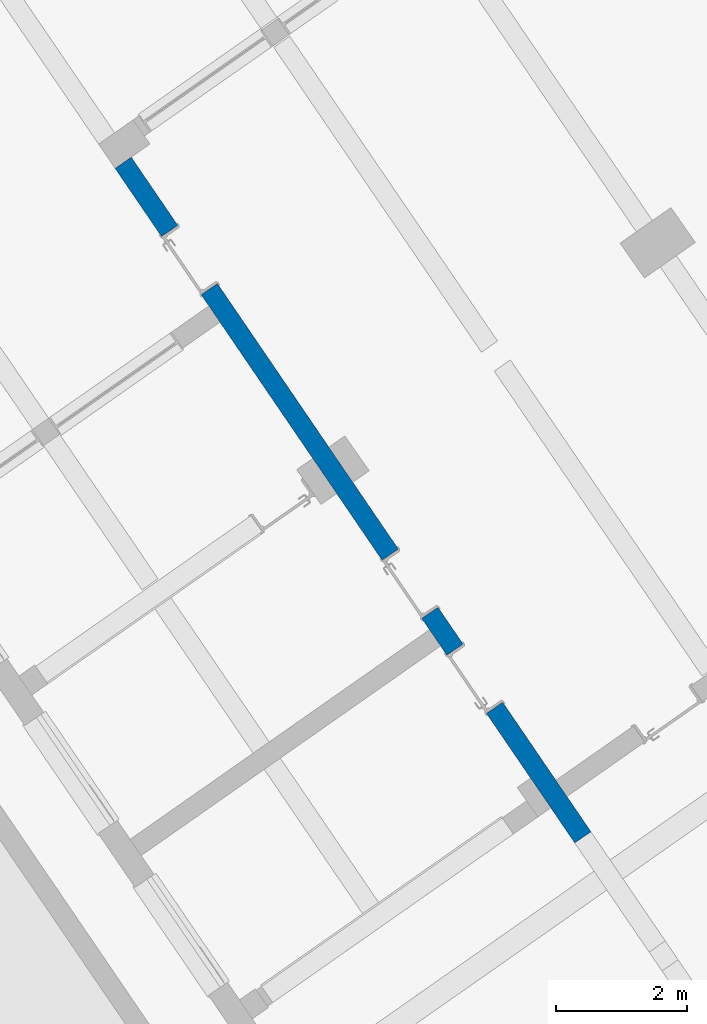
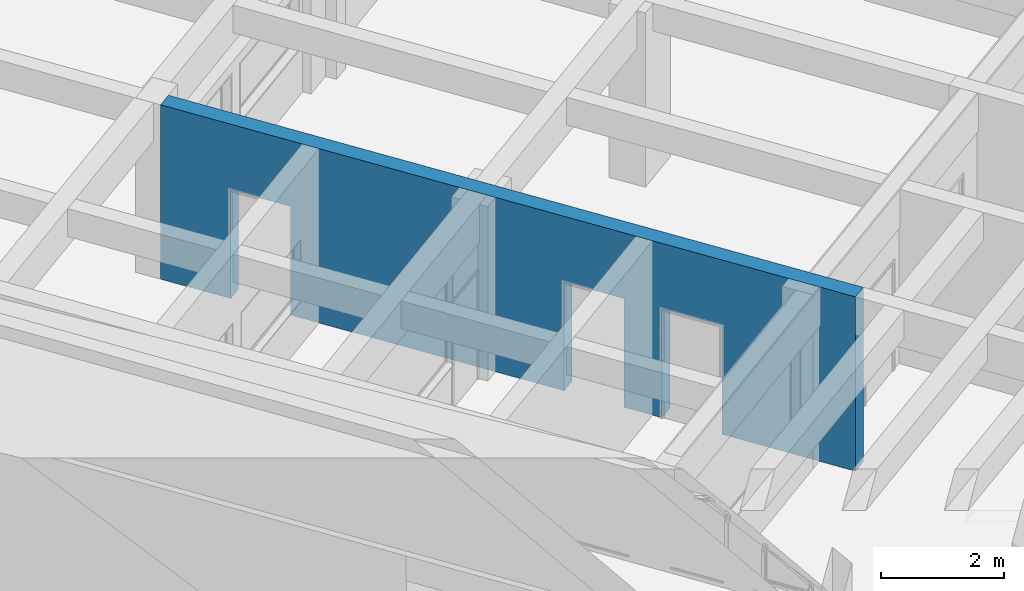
# One storey, part 60 of 112: 1 wall, 3 openings.
"""IFC2X3 building model written with IfcOpenShell, lengths in millimetres."""

from ifc_helpers import new_model, entity, si_unit, converted_unit, derived_unit, direction, frame, frame_2d, origin, place, context, subcontext, project, spatial, polyline, rectangle, outline, extrude, material, layer, layer_set, layer_usage, type_object, element, save


model = new_model("IFC2X3")

# Units and contexts
model_context = context("Model", 3, precision=0.01, world=origin(), true_north=direction((6.123031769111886e-17, 1.0)))
body_context = subcontext(model_context, "Body", "Model", "MODEL_VIEW")
ifc_project = project(units=[si_unit("LENGTHUNIT", "METRE", prefix="MILLI"), si_unit("AREAUNIT", "SQUARE_METRE"), si_unit("VOLUMEUNIT", "CUBIC_METRE"), converted_unit("PLANEANGLEUNIT", "DEGREE", entity("IfcRatioMeasure", 0.017453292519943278), si_unit("PLANEANGLEUNIT", "RADIAN"), dimensions=[0, 0, 0, 0, 0, 0, 0]), si_unit("MASSUNIT", "GRAM", prefix="KILO"), derived_unit("MASSDENSITYUNIT", [(si_unit("MASSUNIT", "GRAM", prefix="KILO"), 1), (si_unit("LENGTHUNIT", "METRE"), -3)]), derived_unit("MOMENTOFINERTIAUNIT", [(si_unit("LENGTHUNIT", "METRE"), 4)]), si_unit("TIMEUNIT", "SECOND"), si_unit("FREQUENCYUNIT", "HERTZ"), si_unit("THERMODYNAMICTEMPERATUREUNIT", "DEGREE_CELSIUS"), derived_unit("THERMALTRANSMITTANCEUNIT", [(si_unit("MASSUNIT", "GRAM", prefix="KILO"), 1), (si_unit("THERMODYNAMICTEMPERATUREUNIT", "KELVIN"), -1), (si_unit("TIMEUNIT", "SECOND"), -3)]), derived_unit("THERMALCONDUCTANCEUNIT", [(si_unit("MASSUNIT", "GRAM", prefix="KILO"), 1), (si_unit("LENGTHUNIT", "METRE"), 1), (si_unit("THERMODYNAMICTEMPERATUREUNIT", "KELVIN"), -1), (si_unit("TIMEUNIT", "SECOND"), -3)]), derived_unit("VOLUMETRICFLOWRATEUNIT", [(si_unit("LENGTHUNIT", "METRE"), 3), (si_unit("TIMEUNIT", "SECOND"), -1)]), derived_unit("MASSFLOWRATEUNIT", [(si_unit("MASSUNIT", "GRAM", prefix="KILO"), 1), (si_unit("TIMEUNIT", "SECOND"), -1)]), derived_unit("ROTATIONALFREQUENCYUNIT", [(si_unit("TIMEUNIT", "SECOND"), -1)]), si_unit("ELECTRICCURRENTUNIT", "AMPERE"), si_unit("ELECTRICVOLTAGEUNIT", "VOLT"), si_unit("POWERUNIT", "WATT"), converted_unit("FORCEUNIT", "KIP", entity("IfcRatioMeasure", 2.088543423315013e-05), si_unit("FORCEUNIT", "NEWTON"), dimensions=[1, 1, -2, 0, 0, 0, 0]), si_unit("ILLUMINANCEUNIT", "LUX"), si_unit("LUMINOUSFLUXUNIT", "LUMEN"), si_unit("LUMINOUSINTENSITYUNIT", "CANDELA"), derived_unit("USERDEFINED", [(si_unit("MASSUNIT", "GRAM", prefix="KILO"), -1), (si_unit("LENGTHUNIT", "METRE"), -2), (si_unit("TIMEUNIT", "SECOND"), 3), (si_unit("LUMINOUSFLUXUNIT", "LUMEN"), 1)]), derived_unit("USERDEFINED", [(si_unit("MASSUNIT", "GRAM", prefix="KILO"), 1), (si_unit("LENGTHUNIT", "METRE"), 3), (si_unit("TIMEUNIT", "SECOND"), -3), (si_unit("ELECTRICCURRENTUNIT", "AMPERE"), -2)]), derived_unit("USERDEFINED", [(si_unit("LENGTHUNIT", "METRE"), 2), (si_unit("TIMEUNIT", "SECOND"), -2)]), derived_unit("SOUNDPOWERUNIT", [(si_unit("MASSUNIT", "GRAM", prefix="KILO"), 1), (si_unit("LENGTHUNIT", "METRE"), 2), (si_unit("TIMEUNIT", "SECOND"), -3)]), derived_unit("SOUNDPRESSUREUNIT", [(si_unit("MASSUNIT", "GRAM", prefix="KILO"), 1), (si_unit("LENGTHUNIT", "METRE"), -1), (si_unit("TIMEUNIT", "SECOND"), -2)]), derived_unit("LINEARVELOCITYUNIT", [(si_unit("LENGTHUNIT", "METRE"), 1), (si_unit("TIMEUNIT", "SECOND"), -1)]), si_unit("PRESSUREUNIT", "PASCAL"), derived_unit("USERDEFINED", [(si_unit("LENGTHUNIT", "METRE"), -2), (si_unit("MASSUNIT", "GRAM", prefix="KILO"), 1), (si_unit("TIMEUNIT", "SECOND"), -2)]), derived_unit("LINEARFORCEUNIT", [(si_unit("MASSUNIT", "GRAM", prefix="KILO"), 1), (si_unit("LENGTHUNIT", "METRE"), 1), (si_unit("TIMEUNIT", "SECOND"), -2), (si_unit("LENGTHUNIT", "METRE"), -1)]), derived_unit("PLANARFORCEUNIT", [(si_unit("MASSUNIT", "GRAM", prefix="KILO"), 1), (si_unit("LENGTHUNIT", "METRE"), 1), (si_unit("TIMEUNIT", "SECOND"), -2), (si_unit("LENGTHUNIT", "METRE"), -2)]), derived_unit("SPECIFICHEATCAPACITYUNIT", [(si_unit("LENGTHUNIT", "METRE"), 2), (si_unit("TIMEUNIT", "SECOND"), -2), (si_unit("THERMODYNAMICTEMPERATUREUNIT", "KELVIN"), -1)]), derived_unit("VAPORPERMEABILITYUNIT", [(si_unit("TIMEUNIT", "SECOND"), 1), (si_unit("LENGTHUNIT", "METRE"), -1)]), derived_unit("DYNAMICVISCOSITYUNIT", [(si_unit("MASSUNIT", "GRAM", prefix="KILO"), 1), (si_unit("LENGTHUNIT", "METRE"), -1), (si_unit("TIMEUNIT", "SECOND"), -1)]), derived_unit("THERMALEXPANSIONCOEFFICIENTUNIT", [(si_unit("THERMODYNAMICTEMPERATUREUNIT", "KELVIN"), -1)])], contexts=[model_context])

# Site, building, storey
site_placement = place(None, frame((0.0, 0.0, 0.0), z_axis=(0.0, 0.0, 1.0), x_axis=(0.8191520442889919, 0.5735764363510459, 0.0)))
site = spatial("IfcSite", under=ifc_project, at=site_placement, Name="Default", CompositionType="ELEMENT")
building_placement = place(site_placement, origin())
building = spatial("IfcBuilding", under=site, at=building_placement, CompositionType="ELEMENT")
storey_placement = place(building_placement, frame((0.0, 0.0, -3600.0)))
storey = spatial("IfcBuildingStorey", under=building, at=storey_placement, Name="0.UG -3.60", CompositionType="ELEMENT", Elevation=-3600.0000000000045)

# Wall, openings
ifc_material = material(Name="Analytical Wall Surface_CJC")
ifc_layer = layer(ifc_material, 300.0)
ifc_layer_set = layer_set([ifc_layer], Name="Basic Wall:Wand_Innen_30")
ifc_layer_usage = layer_usage(ifc_layer_set, "AXIS2", "NEGATIVE", 150.0)
wall_type = type_object("IfcWallType", Name="Basic Wall:Wand_Innen_30", PredefinedType="STANDARD", material=ifc_layer_set)
wall_placement = place(storey_placement, frame((-216931.61897192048, 120894.44947620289, 0.0), z_axis=(0.0, 0.0, 1.0), x_axis=(0.012729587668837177, 0.9999189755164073, 0.0)))
wall = element("IfcWallStandardCase", 1, at=wall_placement, inside=storey, type_object=wall_type, material=ifc_layer_usage, Name="Basic Wall:Wand_Innen_30", ObjectType="Basic Wall:Wand_Innen_30", context=body_context, shape_type="SweptSolid", body=[
    extrude(outline(polyline([(0.0, -150.0), (628.8698301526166, -150.0), (653.8718559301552, -150.0), (953.8961652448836, -150.0), (978.8981910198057, -150.0), (6479.343861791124, -150.0), (6629.356016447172, -150.0), (6979.384377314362, -150.0), (7129.396531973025, -150.0), (12504.832073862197, -150.0), (12501.012888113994, 150.0), (9950.806258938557, 150.0), (9650.781949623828, 150.0), (7125.577346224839, 150.0), (6975.5651915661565, 150.0), (6625.5368306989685, 150.0), (6475.52467604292, 150.0), (3950.320072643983, 150.0), (3650.295763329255, 150.0), (1200.097237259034, 150.0), (975.0790052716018, 150.0), (650.0526701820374, 150.0), (625.0506444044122, 150.0), (0.0, 150.0), (0.0, -150.0)])), origin(), (0.0, 0.0, 1.0), 3450.000000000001),
])
opening_1_placement = place(wall_placement, frame((2400.0, -150.0, 0.0)))
element("IfcOpeningElement", 2, at=opening_1_placement, cuts=wall, Name="Doors_IntSgl:100x210:1", ObjectType="Opening", context=body_context, shape_type="SweptSolid", body=[
    extrude(rectangle(XDim=2150.000000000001, YDim=1079.9999999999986, at=frame_2d((1075.0000000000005, 539.9999999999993), x_axis=(1.0, 0.0))), frame((0.0, 0.0, 0.0), z_axis=(0.0, 1.0, 0.0), x_axis=(0.0, 0.0, 1.0)), (0.0, 0.0, 1.0), 300.0),
])
opening_2_placement = place(wall_placement, frame((4160.0, -150.0, 0.0)))
element("IfcOpeningElement", 3, at=opening_2_placement, cuts=wall, Name="Doors_IntSgl:100x210:1", ObjectType="Opening", context=body_context, shape_type="SweptSolid", body=[
    extrude(rectangle(XDim=2150.000000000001, YDim=1079.9999999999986, at=frame_2d((1075.0000000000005, 539.9999999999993), x_axis=(1.0, 0.0))), frame((0.0, 0.0, 0.0), z_axis=(0.0, 1.0, 0.0), x_axis=(0.0, 0.0, 1.0)), (0.0, 0.0, 1.0), 300.0),
])
opening_3_placement = place(wall_placement, frame((10160.0, -150.0, 0.0)))
element("IfcOpeningElement", 4, at=opening_3_placement, cuts=wall, Name="Doors_IntSgl:100x210:1", ObjectType="Opening", context=body_context, shape_type="SweptSolid", body=[
    extrude(rectangle(XDim=2150.000000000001, YDim=1079.9999999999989, at=frame_2d((1075.0000000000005, 539.9999999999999), x_axis=(1.0, 0.0))), frame((0.0, 0.0, 0.0), z_axis=(0.0, 1.0, 0.0), x_axis=(0.0, 0.0, 1.0)), (0.0, 0.0, 1.0), 300.0),
])

save(model, "model.ifc")
